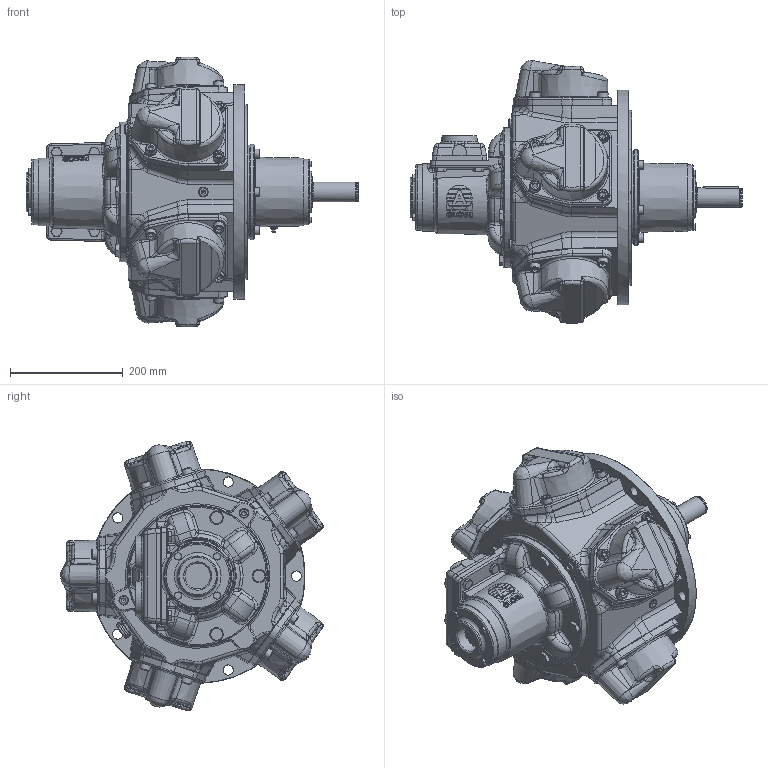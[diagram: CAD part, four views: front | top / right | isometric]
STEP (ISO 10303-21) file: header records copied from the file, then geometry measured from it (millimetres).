
FILE_DESCRIPTION (( 'STEP AP214' ), '1' );
FILE_NAME ('RM510 Defeature + Logo.STEP', '2023-05-17T13:57:47', ( '' ), ( '' ), 'SwSTEP 2.0', 'SolidWorks 2022', '' );
FILE_SCHEMA (( 'AUTOMOTIVE_DESIGN' ));
Length unit declared in the file: millimetre
Products named in the file (1): RM510 Defeature + Logo
Bounding box: 587.81 x 464.97 x 477.62 mm (x, y, z)
Volume: 28567923.7 mm3; surface area: 817055.8 mm2
Topology: 1 solids, 2 shells, 2789 faces, 6855 edges, 4108 vertices
Faces by surface type: plane 1195, bspline 528, cylinder 455, cone 453, torus 126, sphere 32
Full cylindrical faces by diameter (mm): 2.5 x2, 3.2 x1, 10 x5, 11.9 x4, 16 x15, 17 x14, 18 x25, 20 x20, 21 x5, 24 x5, 35.01 x1, 45.25 x3, 48 x1, 51.398 x1, 62 x1, 125 x1, 165.045 x1, 169 x1, 248 x1, 309.96 x1, 380 x1
Entity records: 124062 total; most frequent: CARTESIAN_POINT 58845, ORIENTED_EDGE 12902, DIRECTION 11200, EDGE_CURVE 6451, AXIS2_PLACEMENT_3D 4348, VERTEX_POINT 3982, EDGE_LOOP 3177, FACE_OUTER_BOUND 2915
